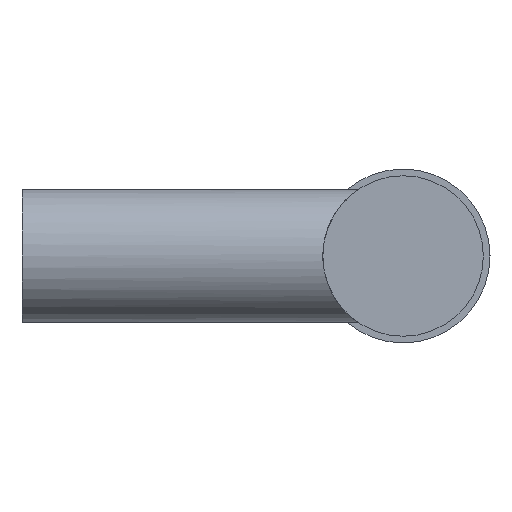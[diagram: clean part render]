
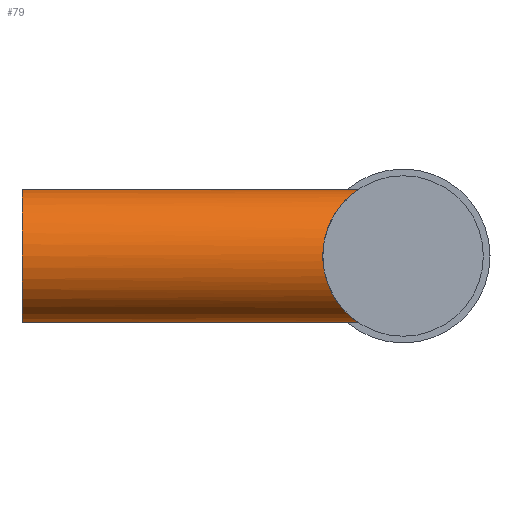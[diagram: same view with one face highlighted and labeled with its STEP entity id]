
A CAD part, left-side view. The second image highlights one B-rep face of the part: STEP entity #79.
In plain terms, the highlighted cylindrical face has radius 5 mm (diameter 10 mm), a partial arc.
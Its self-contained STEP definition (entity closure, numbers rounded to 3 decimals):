
#79 = ADVANCED_FACE( '', ( #107 ), #108, .T. );
#107 = FACE_OUTER_BOUND( '', #157, .T. );
#108 = CYLINDRICAL_SURFACE( '', #158, 5. );
#157 = EDGE_LOOP( '', ( #228, #229, #230, #231 ) );
#158 = AXIS2_PLACEMENT_3D( '', #232, #233, #234 );
#228 = ORIENTED_EDGE( '', *, *, #366, .F. );
#229 = ORIENTED_EDGE( '', *, *, #367, .T. );
#230 = ORIENTED_EDGE( '', *, *, #368, .F. );
#231 = ORIENTED_EDGE( '', *, *, #349, .F. );
#232 = CARTESIAN_POINT( '', ( 0., -12.842, 0. ) );
#233 = DIRECTION( '', ( 0., 1., 0. ) );
#234 = DIRECTION( '', ( 0., 0., 1. ) );
#349 = EDGE_CURVE( '', #391, #390, #393, .T. );
#366 = EDGE_CURVE( '', #426, #391, #427, .T. );
#367 = EDGE_CURVE( '', #426, #428, #429, .T. );
#368 = EDGE_CURVE( '', #390, #428, #430, .T. );
#390 = VERTEX_POINT( '', #460 );
#391 = VERTEX_POINT( '', #461 );
#393 = B_SPLINE_CURVE_WITH_KNOTS( '', 3, ( #496, #497, #498, #499, #500, #501, #502, #503, #504, #505, #506, #507, #508, #509, #510, #511, #512, #513, #514, #515, #516, #517, #518, #519, #520, #521, #522, #523, #524, #525, #526, #527, #528, #529 ), .UNSPECIFIED., .F., .F., ( 4, 2, 2, 2, 2, 2, 2, 2, 2, 2, 2, 2, 2, 2, 2, 2, 4 ), ( 16.322, 17.363, 18.404, 19.446, 20.487, 21.486, 22.485, 23.484, 24.483, 25.482, 26.481, 27.479, 28.478, 29.52, 30.561, 31.602, 32.643 ), .UNSPECIFIED. );
#426 = VERTEX_POINT( '', #603 );
#427 = LINE( '', #604, #605 );
#428 = VERTEX_POINT( '', #606 );
#429 = CIRCLE( '', #607, 5. );
#430 = LINE( '', #608, #609 );
#460 = CARTESIAN_POINT( '', ( 0., -25.183, -5. ) );
#461 = CARTESIAN_POINT( '', ( 0., -25.183, 5. ) );
#496 = CARTESIAN_POINT( '', ( 0., -25.183, 5. ) );
#497 = CARTESIAN_POINT( '', ( -0.347, -25.183, 5. ) );
#498 = CARTESIAN_POINT( '', ( -0.687, -25.127, 4.964 ) );
#499 = CARTESIAN_POINT( '', ( -1.343, -24.936, 4.828 ) );
#500 = CARTESIAN_POINT( '', ( -1.659, -24.801, 4.728 ) );
#501 = CARTESIAN_POINT( '', ( -2.259, -24.495, 4.472 ) );
#502 = CARTESIAN_POINT( '', ( -2.544, -24.325, 4.316 ) );
#503 = CARTESIAN_POINT( '', ( -3.073, -23.983, 3.957 ) );
#504 = CARTESIAN_POINT( '', ( -3.317, -23.811, 3.754 ) );
#505 = CARTESIAN_POINT( '', ( -3.745, -23.5, 3.326 ) );
#506 = CARTESIAN_POINT( '', ( -3.946, -23.347, 3.088 ) );
#507 = CARTESIAN_POINT( '', ( -4.306, -23.066, 2.561 ) );
#508 = CARTESIAN_POINT( '', ( -4.467, -22.937, 2.272 ) );
#509 = CARTESIAN_POINT( '', ( -4.728, -22.725, 1.659 ) );
#510 = CARTESIAN_POINT( '', ( -4.83, -22.641, 1.335 ) );
#511 = CARTESIAN_POINT( '', ( -4.966, -22.528, 0.672 ) );
#512 = CARTESIAN_POINT( '', ( -5., -22.5, 0.333 ) );
#513 = CARTESIAN_POINT( '', ( -5., -22.5, -0.333 ) );
#514 = CARTESIAN_POINT( '', ( -4.966, -22.528, -0.672 ) );
#515 = CARTESIAN_POINT( '', ( -4.83, -22.641, -1.335 ) );
#516 = CARTESIAN_POINT( '', ( -4.728, -22.725, -1.659 ) );
#517 = CARTESIAN_POINT( '', ( -4.467, -22.937, -2.272 ) );
#518 = CARTESIAN_POINT( '', ( -4.306, -23.066, -2.561 ) );
#519 = CARTESIAN_POINT( '', ( -3.946, -23.347, -3.088 ) );
#520 = CARTESIAN_POINT( '', ( -3.745, -23.5, -3.326 ) );
#521 = CARTESIAN_POINT( '', ( -3.317, -23.811, -3.754 ) );
#522 = CARTESIAN_POINT( '', ( -3.073, -23.983, -3.957 ) );
#523 = CARTESIAN_POINT( '', ( -2.544, -24.325, -4.316 ) );
#524 = CARTESIAN_POINT( '', ( -2.259, -24.495, -4.472 ) );
#525 = CARTESIAN_POINT( '', ( -1.659, -24.801, -4.728 ) );
#526 = CARTESIAN_POINT( '', ( -1.343, -24.936, -4.828 ) );
#527 = CARTESIAN_POINT( '', ( -0.687, -25.127, -4.964 ) );
#528 = CARTESIAN_POINT( '', ( -0.347, -25.183, -5. ) );
#529 = CARTESIAN_POINT( '', ( 0., -25.183, -5. ) );
#603 = CARTESIAN_POINT( '', ( 0., 0., 5. ) );
#604 = CARTESIAN_POINT( '', ( 0., -12.842, 5. ) );
#605 = VECTOR( '', #705, 1. );
#606 = CARTESIAN_POINT( '', ( 0., 0., -5. ) );
#607 = AXIS2_PLACEMENT_3D( '', #706, #707, #708 );
#608 = CARTESIAN_POINT( '', ( 0., -12.842, -5. ) );
#609 = VECTOR( '', #709, 1. );
#705 = DIRECTION( '', ( 0., -1., 0. ) );
#706 = CARTESIAN_POINT( '', ( 0., 0., 0. ) );
#707 = DIRECTION( '', ( 0., -1., 0. ) );
#708 = DIRECTION( '', ( 0., 0., 1. ) );
#709 = DIRECTION( '', ( 0., 1., 0. ) );
